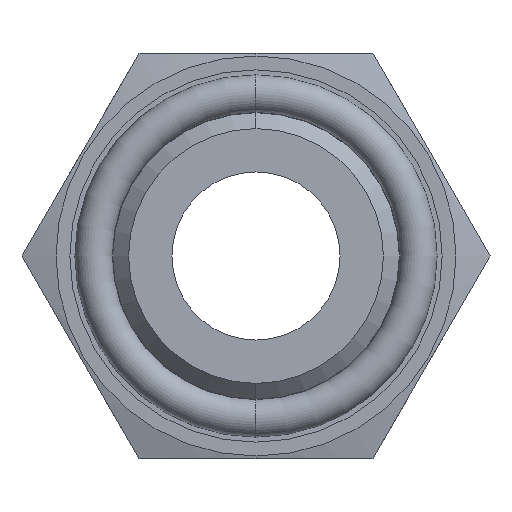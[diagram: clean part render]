
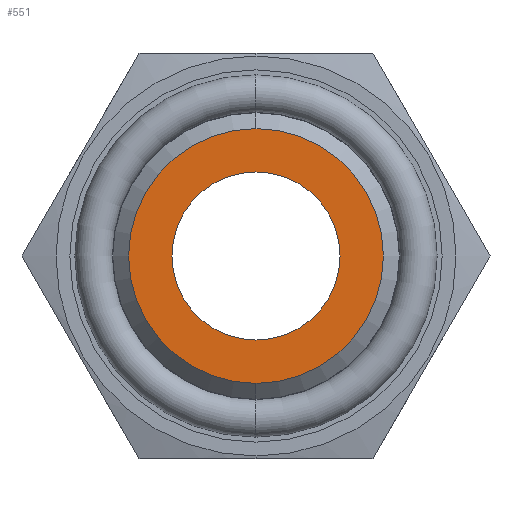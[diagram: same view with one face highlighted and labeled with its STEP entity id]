
A CAD part, left-side view. The second image highlights one B-rep face of the part: STEP entity #551.
In plain terms, the highlighted planar face has unit normal (-1, 0, 0).
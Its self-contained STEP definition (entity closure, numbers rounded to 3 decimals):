
#136 = VERTEX_POINT ( 'NONE', #946 ) ;
#138 = EDGE_CURVE ( 'NONE', #136, #197, #944, .T. ) ;
#197 = VERTEX_POINT ( 'NONE', #1062 ) ;
#325 = EDGE_CURVE ( 'NONE', #326, #327, #1369, .T. ) ;
#326 = VERTEX_POINT ( 'NONE', #1364 ) ;
#327 = VERTEX_POINT ( 'NONE', #1363 ) ;
#420 = EDGE_CURVE ( 'NONE', #327, #326, #1592, .T. ) ;
#530 = ORIENTED_EDGE ( 'NONE', *, *, #420, .F. ) ;
#531 = EDGE_LOOP ( 'NONE', ( #532, #534 ) ) ;
#532 = ORIENTED_EDGE ( 'NONE', *, *, #533, .T. ) ;
#533 = EDGE_CURVE ( 'NONE', #197, #136, #1708, .T. ) ;
#534 = ORIENTED_EDGE ( 'NONE', *, *, #138, .T. ) ;
#551 = ADVANCED_FACE ( 'NONE', ( #1747, #1746 ), #1745, .T. ) ;
#552 = EDGE_LOOP ( 'NONE', ( #553, #530 ) ) ;
#553 = ORIENTED_EDGE ( 'NONE', *, *, #325, .F. ) ;
#928 = DIRECTION ( 'NONE',  ( 0., 0., 1. ) ) ;
#929 = DIRECTION ( 'NONE',  ( -1., 0., 0. ) ) ;
#930 = CARTESIAN_POINT ( 'NONE',  ( -20.2, 0., 0. ) ) ;
#931 = AXIS2_PLACEMENT_3D ( 'NONE', #930, #929, #928 ) ;
#944 = CIRCLE ( 'NONE', #931, 11.972 ) ;
#946 = CARTESIAN_POINT ( 'NONE',  ( -20.2, 0., 11.972 ) ) ;
#1062 = CARTESIAN_POINT ( 'NONE',  ( -20.2, 0., -11.972 ) ) ;
#1363 = CARTESIAN_POINT ( 'NONE',  ( -20.2, 0., 7.9 ) ) ;
#1364 = CARTESIAN_POINT ( 'NONE',  ( -20.2, 0., -7.9 ) ) ;
#1365 = DIRECTION ( 'NONE',  ( 0., 0., 1. ) ) ;
#1366 = DIRECTION ( 'NONE',  ( -1., 0., 0. ) ) ;
#1367 = CARTESIAN_POINT ( 'NONE',  ( -20.2, 0., 0. ) ) ;
#1368 = AXIS2_PLACEMENT_3D ( 'NONE', #1367, #1366, #1365 ) ;
#1369 = CIRCLE ( 'NONE', #1368, 7.9 ) ;
#1583 = DIRECTION ( 'NONE',  ( 0., 0., 1. ) ) ;
#1584 = DIRECTION ( 'NONE',  ( -1., 0., 0. ) ) ;
#1585 = CARTESIAN_POINT ( 'NONE',  ( -20.2, 0., 0. ) ) ;
#1586 = AXIS2_PLACEMENT_3D ( 'NONE', #1585, #1584, #1583 ) ;
#1592 = CIRCLE ( 'NONE', #1586, 7.9 ) ;
#1708 = CIRCLE ( 'NONE', #1773, 11.972 ) ;
#1740 = DIRECTION ( 'NONE',  ( 0., 0., 1. ) ) ;
#1741 = DIRECTION ( 'NONE',  ( -1., 0., 0. ) ) ;
#1742 = AXIS2_PLACEMENT_3D ( 'NONE', #1744, #1741, #1740 ) ;
#1744 = CARTESIAN_POINT ( 'NONE',  ( -20.2, 0., 0. ) ) ;
#1745 = PLANE ( 'NONE',  #1742 ) ;
#1746 = FACE_OUTER_BOUND ( 'NONE', #531, .T. ) ;
#1747 = FACE_BOUND ( 'NONE', #552, .T. ) ;
#1770 = DIRECTION ( 'NONE',  ( 0., 0., 1. ) ) ;
#1771 = DIRECTION ( 'NONE',  ( -1., 0., 0. ) ) ;
#1772 = CARTESIAN_POINT ( 'NONE',  ( -20.2, 0., 0. ) ) ;
#1773 = AXIS2_PLACEMENT_3D ( 'NONE', #1772, #1771, #1770 ) ;
